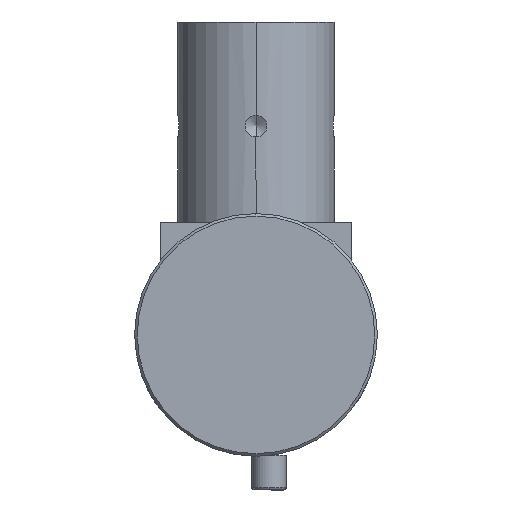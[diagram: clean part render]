
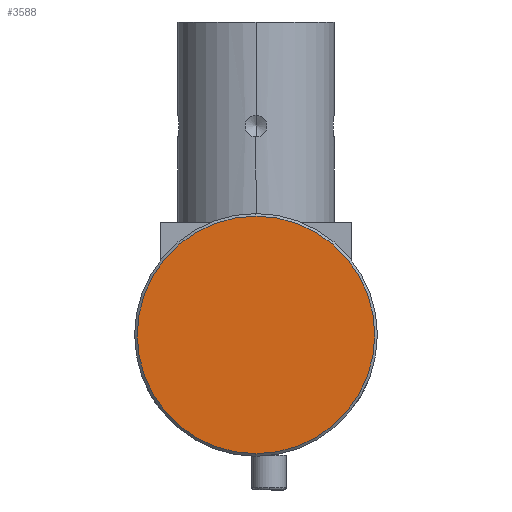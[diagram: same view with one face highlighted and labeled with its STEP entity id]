
A CAD part, left-side view. The second image highlights one B-rep face of the part: STEP entity #3588.
In plain terms, the highlighted planar face has unit normal (-1, 0, 0).
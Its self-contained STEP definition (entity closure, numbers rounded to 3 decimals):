
#704 = CARTESIAN_POINT ( 'NONE',  ( -155.7, -13.864, 13.864 ) ) ;
#1185 = CARTESIAN_POINT ( 'NONE',  ( -155.7, 0., 13.7 ) ) ;
#1193 = EDGE_LOOP ( 'NONE', ( #5606, #1611 ) ) ;
#1379 = DIRECTION ( 'NONE',  ( -1., 0., 0. ) ) ;
#1502 = CARTESIAN_POINT ( 'NONE',  ( -155.7, 0., 0. ) ) ;
#1611 = ORIENTED_EDGE ( 'NONE', *, *, #2790, .T. ) ;
#1649 = PLANE ( 'NONE',  #1781 ) ;
#1781 = AXIS2_PLACEMENT_3D ( 'NONE', #704, #3079, #4007 ) ;
#2112 = CIRCLE ( 'NONE', #4586, 13.7 ) ;
#2790 = EDGE_CURVE ( 'NONE', #3017, #5095, #2112, .T. ) ;
#3017 = VERTEX_POINT ( 'NONE', #1185 ) ;
#3079 = DIRECTION ( 'NONE',  ( 1., 0., 0. ) ) ;
#3366 = DIRECTION ( 'NONE',  ( -1., 0., 0. ) ) ;
#3588 = ADVANCED_FACE ( 'NONE', ( #3673 ), #1649, .F. ) ;
#3673 = FACE_OUTER_BOUND ( 'NONE', #1193, .T. ) ;
#4007 = DIRECTION ( 'NONE',  ( 0., 0., -1. ) ) ;
#4317 = DIRECTION ( 'NONE',  ( 0., 0., -1. ) ) ;
#4348 = EDGE_CURVE ( 'NONE', #5095, #3017, #5157, .T. ) ;
#4586 = AXIS2_PLACEMENT_3D ( 'NONE', #1502, #3366, #4317 ) ;
#5095 = VERTEX_POINT ( 'NONE', #5456 ) ;
#5157 = CIRCLE ( 'NONE', #5249, 13.7 ) ;
#5171 = CARTESIAN_POINT ( 'NONE',  ( -155.7, 0., 0. ) ) ;
#5201 = DIRECTION ( 'NONE',  ( 0., 0., -1. ) ) ;
#5249 = AXIS2_PLACEMENT_3D ( 'NONE', #5171, #1379, #5201 ) ;
#5456 = CARTESIAN_POINT ( 'NONE',  ( -155.7, 0., -13.7 ) ) ;
#5606 = ORIENTED_EDGE ( 'NONE', *, *, #4348, .T. ) ;
